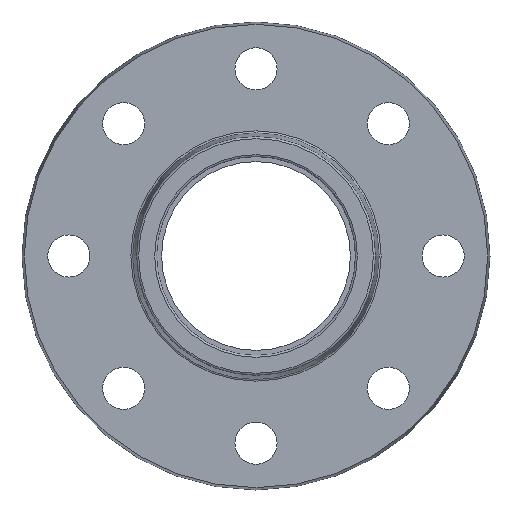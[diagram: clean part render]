
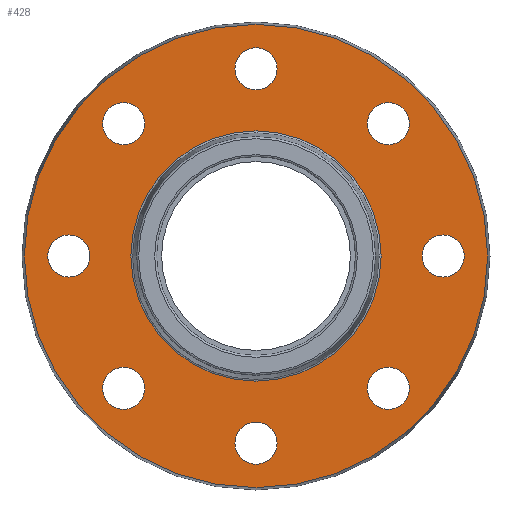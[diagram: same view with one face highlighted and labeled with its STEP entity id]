
A CAD part, left-side view. The second image highlights one B-rep face of the part: STEP entity #428.
In plain terms, the highlighted planar face has unit normal (-1, 0, 0).
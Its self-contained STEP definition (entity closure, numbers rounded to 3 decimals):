
#29=PLANE('',#493);
#60=FACE_BOUND('',#162,.T.);
#61=FACE_BOUND('',#163,.T.);
#62=FACE_BOUND('',#164,.T.);
#63=FACE_BOUND('',#165,.T.);
#64=FACE_BOUND('',#166,.T.);
#65=FACE_BOUND('',#167,.T.);
#66=FACE_BOUND('',#168,.T.);
#67=FACE_BOUND('',#169,.T.);
#68=FACE_BOUND('',#170,.T.);
#100=FACE_OUTER_BOUND('',#161,.T.);
#161=EDGE_LOOP('',(#361));
#162=EDGE_LOOP('',(#362));
#163=EDGE_LOOP('',(#363));
#164=EDGE_LOOP('',(#364));
#165=EDGE_LOOP('',(#365));
#166=EDGE_LOOP('',(#366));
#167=EDGE_LOOP('',(#367));
#168=EDGE_LOOP('',(#368));
#169=EDGE_LOOP('',(#369));
#170=EDGE_LOOP('',(#370));
#221=CIRCLE('',#492,53.463);
#222=CIRCLE('',#494,99.);
#223=CIRCLE('',#495,9.);
#224=CIRCLE('',#496,9.);
#225=CIRCLE('',#497,9.);
#226=CIRCLE('',#498,9.);
#227=CIRCLE('',#499,9.);
#228=CIRCLE('',#500,9.);
#229=CIRCLE('',#501,9.);
#230=CIRCLE('',#502,9.);
#261=VERTEX_POINT('',#741);
#262=VERTEX_POINT('',#744);
#263=VERTEX_POINT('',#746);
#264=VERTEX_POINT('',#748);
#265=VERTEX_POINT('',#750);
#266=VERTEX_POINT('',#752);
#267=VERTEX_POINT('',#754);
#268=VERTEX_POINT('',#756);
#269=VERTEX_POINT('',#758);
#270=VERTEX_POINT('',#760);
#301=EDGE_CURVE('',#261,#261,#221,.T.);
#302=EDGE_CURVE('',#262,#262,#222,.T.);
#303=EDGE_CURVE('',#263,#263,#223,.T.);
#304=EDGE_CURVE('',#264,#264,#224,.T.);
#305=EDGE_CURVE('',#265,#265,#225,.T.);
#306=EDGE_CURVE('',#266,#266,#226,.T.);
#307=EDGE_CURVE('',#267,#267,#227,.T.);
#308=EDGE_CURVE('',#268,#268,#228,.T.);
#309=EDGE_CURVE('',#269,#269,#229,.T.);
#310=EDGE_CURVE('',#270,#270,#230,.T.);
#361=ORIENTED_EDGE('',*,*,#302,.T.);
#362=ORIENTED_EDGE('',*,*,#303,.T.);
#363=ORIENTED_EDGE('',*,*,#304,.T.);
#364=ORIENTED_EDGE('',*,*,#305,.T.);
#365=ORIENTED_EDGE('',*,*,#306,.T.);
#366=ORIENTED_EDGE('',*,*,#307,.T.);
#367=ORIENTED_EDGE('',*,*,#308,.T.);
#368=ORIENTED_EDGE('',*,*,#309,.T.);
#369=ORIENTED_EDGE('',*,*,#310,.T.);
#370=ORIENTED_EDGE('',*,*,#301,.F.);
#428=ADVANCED_FACE('',(#100,#60,#61,#62,#63,#64,#65,#66,#67,#68),#29,.T.);
#492=AXIS2_PLACEMENT_3D('',#742,#617,#618);
#493=AXIS2_PLACEMENT_3D('',#743,#619,#620);
#494=AXIS2_PLACEMENT_3D('',#745,#621,#622);
#495=AXIS2_PLACEMENT_3D('',#747,#623,#624);
#496=AXIS2_PLACEMENT_3D('',#749,#625,#626);
#497=AXIS2_PLACEMENT_3D('',#751,#627,#628);
#498=AXIS2_PLACEMENT_3D('',#753,#629,#630);
#499=AXIS2_PLACEMENT_3D('',#755,#631,#632);
#500=AXIS2_PLACEMENT_3D('',#757,#633,#634);
#501=AXIS2_PLACEMENT_3D('',#759,#635,#636);
#502=AXIS2_PLACEMENT_3D('',#761,#637,#638);
#617=DIRECTION('center_axis',(-1.,0.,0.));
#618=DIRECTION('ref_axis',(0.,1.,0.));
#619=DIRECTION('center_axis',(-1.,0.,0.));
#620=DIRECTION('ref_axis',(0.,0.,1.));
#621=DIRECTION('center_axis',(-1.,0.,0.));
#622=DIRECTION('ref_axis',(0.,0.,1.));
#623=DIRECTION('center_axis',(1.,0.,0.));
#624=DIRECTION('ref_axis',(0.,0.,1.));
#625=DIRECTION('center_axis',(1.,0.,0.));
#626=DIRECTION('ref_axis',(0.,0.707,0.707));
#627=DIRECTION('center_axis',(1.,0.,0.));
#628=DIRECTION('ref_axis',(0.,1.,0.));
#629=DIRECTION('center_axis',(1.,0.,0.));
#630=DIRECTION('ref_axis',(0.,0.707,-0.707));
#631=DIRECTION('center_axis',(1.,0.,0.));
#632=DIRECTION('ref_axis',(0.,0.,-1.));
#633=DIRECTION('center_axis',(1.,0.,0.));
#634=DIRECTION('ref_axis',(0.,-0.707,-0.707));
#635=DIRECTION('center_axis',(1.,0.,0.));
#636=DIRECTION('ref_axis',(0.,-1.,0.));
#637=DIRECTION('center_axis',(1.,0.,0.));
#638=DIRECTION('ref_axis',(0.,-0.707,0.707));
#741=CARTESIAN_POINT('',(7.,-53.463,0.));
#742=CARTESIAN_POINT('Origin',(7.,0.,0.));
#743=CARTESIAN_POINT('Origin',(7.,-52.656,0.));
#744=CARTESIAN_POINT('',(7.,-99.,0.));
#745=CARTESIAN_POINT('Origin',(7.,0.,0.));
#746=CARTESIAN_POINT('',(7.,80.,-9.));
#747=CARTESIAN_POINT('Origin',(7.,80.,0.));
#748=CARTESIAN_POINT('',(7.,50.205,-62.933));
#749=CARTESIAN_POINT('Origin',(7.,56.569,-56.569));
#750=CARTESIAN_POINT('',(7.,-9.,-80.));
#751=CARTESIAN_POINT('Origin',(7.,0.,-80.));
#752=CARTESIAN_POINT('',(7.,-62.933,-50.205));
#753=CARTESIAN_POINT('Origin',(7.,-56.569,-56.569));
#754=CARTESIAN_POINT('',(7.,-80.,9.));
#755=CARTESIAN_POINT('Origin',(7.,-80.,0.));
#756=CARTESIAN_POINT('',(7.,-50.205,62.933));
#757=CARTESIAN_POINT('Origin',(7.,-56.569,56.569));
#758=CARTESIAN_POINT('',(7.,9.,80.));
#759=CARTESIAN_POINT('Origin',(7.,0.,80.));
#760=CARTESIAN_POINT('',(7.,62.933,50.205));
#761=CARTESIAN_POINT('Origin',(7.,56.569,56.569));
